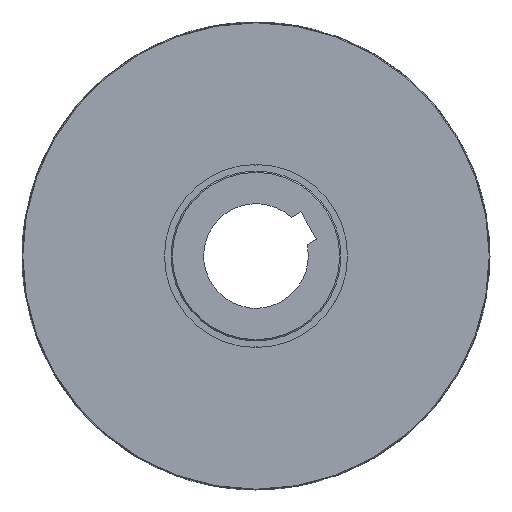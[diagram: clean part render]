
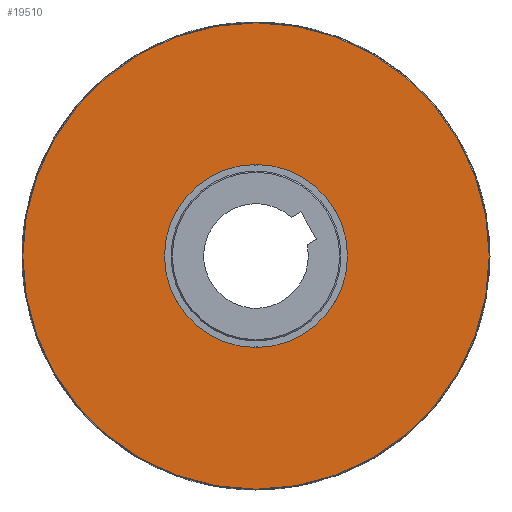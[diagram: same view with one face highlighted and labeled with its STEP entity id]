
A CAD part, left-side view. The second image highlights one B-rep face of the part: STEP entity #19510.
In plain terms, the highlighted planar face has unit normal (-1, 0, 0).
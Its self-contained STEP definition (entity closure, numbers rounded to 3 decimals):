
#3904=PLANE('',#20489);
#4409=FACE_BOUND('',#5746,.T.);
#4851=FACE_OUTER_BOUND('',#5745,.T.);
#5745=EDGE_LOOP('',(#12956));
#5746=EDGE_LOOP('',(#12957));
#7088=CIRCLE('',#20469,89.2);
#7107=CIRCLE('',#20490,35.);
#7893=VERTEX_POINT('',#27092);
#7930=VERTEX_POINT('',#27168);
#10063=EDGE_CURVE('',#7893,#7893,#7088,.T.);
#10100=EDGE_CURVE('',#7930,#7930,#7107,.T.);
#12956=ORIENTED_EDGE('',*,*,#10063,.F.);
#12957=ORIENTED_EDGE('',*,*,#10100,.F.);
#19510=ADVANCED_FACE('',(#4851,#4409),#3904,.T.);
#20469=AXIS2_PLACEMENT_3D('',#27093,#22229,#22230);
#20489=AXIS2_PLACEMENT_3D('',#27167,#22287,#22288);
#20490=AXIS2_PLACEMENT_3D('',#27169,#22289,#22290);
#22229=DIRECTION('center_axis',(1.,0.,0.));
#22230=DIRECTION('ref_axis',(0.,-1.,0.));
#22287=DIRECTION('center_axis',(-1.,0.,0.));
#22288=DIRECTION('ref_axis',(0.,0.,1.));
#22289=DIRECTION('center_axis',(-1.,0.,0.));
#22290=DIRECTION('ref_axis',(0.,1.,0.));
#27092=CARTESIAN_POINT('',(-115.,89.2,0.));
#27093=CARTESIAN_POINT('Origin',(-115.,0.,0.));
#27167=CARTESIAN_POINT('Origin',(-115.,62.25,0.));
#27168=CARTESIAN_POINT('',(-115.,35.,0.));
#27169=CARTESIAN_POINT('Origin',(-115.,0.,0.));
